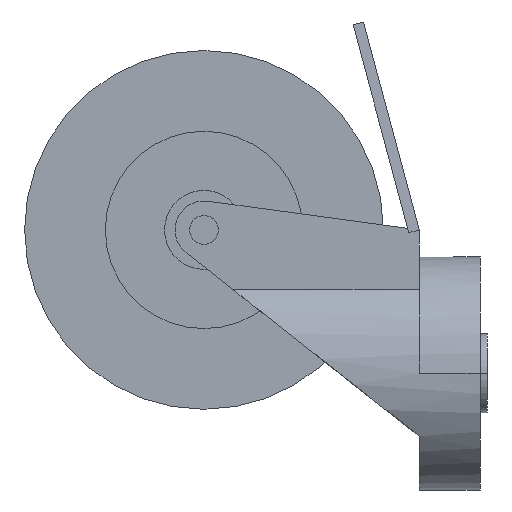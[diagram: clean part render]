
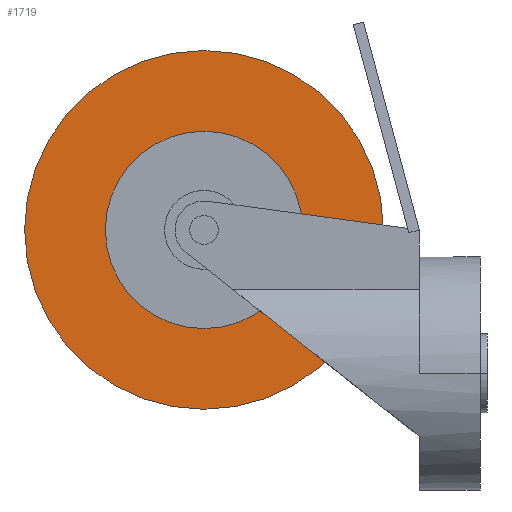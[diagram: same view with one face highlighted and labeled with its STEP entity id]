
A CAD part, left-side view. The second image highlights one B-rep face of the part: STEP entity #1719.
In plain terms, the highlighted planar face has unit normal (-1, 0, 0).
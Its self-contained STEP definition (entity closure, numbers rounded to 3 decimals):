
#1402=CARTESIAN_POINT('',(-15.,0.,0.));
#1403=DIRECTION('',(-1.,0.,0.));
#1404=DIRECTION('',(0.,0.,-1.));
#1405=AXIS2_PLACEMENT_3D('',#1402,#1403,#1404);
#1407=CARTESIAN_POINT('',(-15.,0.,0.));
#1408=DIRECTION('',(1.,0.,0.));
#1409=DIRECTION('',(0.,0.,-1.));
#1410=AXIS2_PLACEMENT_3D('',#1407,#1408,#1409);
#1412=CARTESIAN_POINT('',(-15.,0.,0.));
#1413=DIRECTION('',(1.,0.,0.));
#1414=DIRECTION('',(0.,0.,-1.));
#1415=AXIS2_PLACEMENT_3D('',#1412,#1413,#1414);
#1425=CARTESIAN_POINT('',(-15.,0.,0.));
#1426=DIRECTION('',(-1.,0.,0.));
#1427=DIRECTION('',(0.,0.,-1.));
#1428=AXIS2_PLACEMENT_3D('',#1425,#1426,#1427);
#1523=CARTESIAN_POINT('',(-15.,0.,-50.));
#1525=VERTEX_POINT('',#1523);
#1526=CARTESIAN_POINT('',(-15.,0.,-27.5));
#1528=VERTEX_POINT('',#1526);
#1543=CARTESIAN_POINT('',(-15.,0.,50.));
#1545=VERTEX_POINT('',#1543);
#1546=CARTESIAN_POINT('',(-15.,0.,27.5));
#1548=VERTEX_POINT('',#1546);
#1704=CARTESIAN_POINT('',(-15.,0.,0.));
#1705=DIRECTION('',(1.,0.,0.));
#1706=DIRECTION('',(0.,0.,1.));
#1707=AXIS2_PLACEMENT_3D('',#1704,#1705,#1706);
#1708=PLANE('',#1707);
#1709=ORIENTED_EDGE('',*,*,#1697,.F.);
#1710=ORIENTED_EDGE('',*,*,#1686,.T.);
#1711=EDGE_LOOP('',(#1709,#1710));
#1712=FACE_OUTER_BOUND('',#1711,.F.);
#1714=ORIENTED_EDGE('',*,*,#1713,.F.);
#1716=ORIENTED_EDGE('',*,*,#1715,.T.);
#1717=EDGE_LOOP('',(#1714,#1716));
#1718=FACE_BOUND('',#1717,.F.);
#1719=ADVANCED_FACE('',(#1712,#1718),#1708,.F.);
#1406=CIRCLE('',#1405,50.);
#1411=CIRCLE('',#1410,50.);
#1416=CIRCLE('',#1415,27.5);
#1429=CIRCLE('',#1428,27.5);
#1686=EDGE_CURVE('',#1525,#1545,#1411,.T.);
#1697=EDGE_CURVE('',#1525,#1545,#1406,.T.);
#1713=EDGE_CURVE('',#1528,#1548,#1416,.T.);
#1715=EDGE_CURVE('',#1528,#1548,#1429,.T.);
